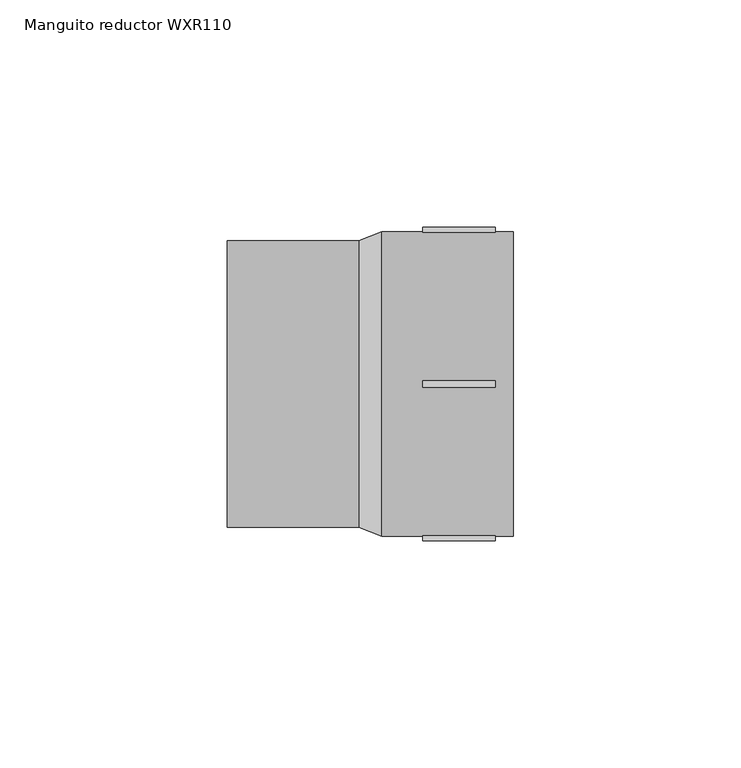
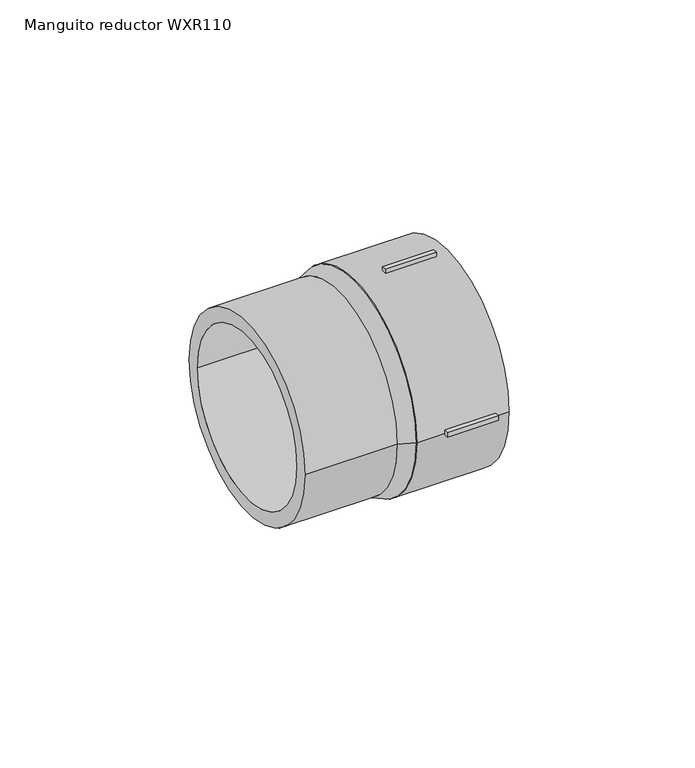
"""IFC4 building model written with IfcOpenShell, lengths in millimetres: pipe fitting geometry, EGB_VASEN_ PPR_Manguito reductor WXR110 : Manguito reductor WXR110."""

from ifc_helpers import new_model, si_unit, point, frame, origin, origin_2d, place, context, project, spatial, polyline, circle_curve, trimmed, segment, composite_curve, outline, extrude, source, transform, mapped, element, save
from ifc_brep_helpers import plane_surface, revolved_surface, advanced_brep


def manguito_reductor_wxr110_e041a7d7(model_context):
    return source(origin(), model_context, "Body", "SolidModel", [
        extrude(outline(polyline([(11.5, -0.75), (11.5, 0.75), (27.5, 0.75), (27.5, -0.75), (11.5, -0.75)])), frame((0.0, 0.0, 32.5), z_axis=(0.0, 0.0, 1.0), x_axis=(1.0, 0.0, 0.0)), (0.0, 0.0, 1.0), 2.0),
        extrude(outline(polyline([(11.5, -0.75), (11.5, 0.75), (27.5, 0.75), (27.5, -0.75), (11.5, -0.75)])), frame((0.0, 0.0, -34.5), z_axis=(0.0, 0.0, 1.0), x_axis=(1.0, 0.0, 0.0)), (0.0, 0.0, 1.0), 2.0),
        extrude(outline(polyline([(11.5, 32.5), (11.5, 34.5), (27.5, 34.5), (27.5, 32.5), (11.5, 32.5)])), frame((0.0, 0.0, -0.75), z_axis=(0.0, 0.0, 1.0), x_axis=(1.0, 0.0, 0.0)), (0.0, 0.0, 1.0), 1.5),
        extrude(outline(polyline([(11.5, -34.5), (11.5, -32.5), (27.5, -32.5), (27.5, -34.5), (11.5, -34.5)])), frame((0.0, 0.0, -0.75), z_axis=(0.0, 0.0, 1.0), x_axis=(1.0, 0.0, 0.0)), (0.0, 0.0, 1.0), 1.5),
        extrude(outline(composite_curve([segment(trimmed(circle_curve(origin_2d(), 33.5), [point((-33.5, 0.0))], [point((33.5, 0.0))], False, "CARTESIAN"), True, "CONTINUOUS"), segment(trimmed(circle_curve(origin_2d(), 33.5), [point((33.5, 0.0))], [point((-33.5, 0.0))], False, "CARTESIAN"), True, "CONTINUOUS")], self_intersect=False), holes=[composite_curve([segment(trimmed(circle_curve(origin_2d(), 25.0), [point((-25.0, 0.0))], [point((25.0, 0.0))], True, "CARTESIAN"), True, "CONTINUOUS"), segment(trimmed(circle_curve(origin_2d(), 25.0), [point((25.0, 0.0))], [point((-25.0, 0.0))], True, "CARTESIAN"), True, "CONTINUOUS")], self_intersect=False)]), frame((2.52, 0.0, 0.0), z_axis=(1.0, 0.0, 0.0), x_axis=(0.0, 1.0, 0.0)), (0.0, 0.0, 1.0), 28.98),
        extrude(outline(composite_curve([segment(trimmed(circle_curve(origin_2d(), 31.5), [point((-31.5, 0.0))], [point((31.5, 0.0))], False, "CARTESIAN"), True, "CONTINUOUS"), segment(trimmed(circle_curve(origin_2d(), 31.5), [point((31.5, 0.0))], [point((-31.5, 0.0))], False, "CARTESIAN"), True, "CONTINUOUS")], self_intersect=False), holes=[composite_curve([segment(trimmed(circle_curve(origin_2d(), 27.0), [point((-27.0, 0.0))], [point((27.0, 0.0))], True, "CARTESIAN"), True, "CONTINUOUS"), segment(trimmed(circle_curve(origin_2d(), 27.0), [point((27.0, 0.0))], [point((-27.0, 0.0))], True, "CARTESIAN"), True, "CONTINUOUS")], self_intersect=False)]), frame((-31.5, 0.0, 0.0), z_axis=(1.0, 0.0, 0.0), x_axis=(0.0, 1.0, 0.0)), (0.0, 0.0, 1.0), 28.98),
        advanced_brep(
        [(2.52, -33.5, 0.0), (2.52, 33.5, 0.0), (-2.52, -31.5, 0.0), (-2.52, 31.5, 0.0)],
        [
            (0, 1, circle_curve(frame((2.52, 0.0, 0.0), z_axis=(1.0, 0.0, 0.0), x_axis=(0.0, -1.0, 0.0)), 33.5)),
            (1, 0, circle_curve(frame((2.52, 0.0, 0.0), z_axis=(1.0, 0.0, 0.0), x_axis=(0.0, 1.0, 0.0)), 33.5)),
            (2, 3, circle_curve(frame((-2.52, 0.0, 0.0), z_axis=(-1.0, 0.0, 0.0), x_axis=(0.0, 1.0, 0.0)), 31.5)),
            (3, 2, circle_curve(frame((-2.52, 0.0, 0.0), z_axis=(-1.0, 0.0, 0.0), x_axis=(0.0, -1.0, 0.0)), 31.5)),
            (3, 1),
            (0, 2),
        ],
        [
            plane_surface(frame((2.52, 0.0, 0.0), z_axis=(1.0, 0.0, 0.0), x_axis=(0.0, 0.0, -1.0))),
            plane_surface(frame((-2.52, 0.0, 0.0), z_axis=(-1.0, 0.0, 0.0), x_axis=(0.0, 0.0, -1.0))),
            revolved_surface(polyline([(-2.519999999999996, 31.5, 0.0), (2.519999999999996, 33.5, 0.0)]), (-81.9, 0.0, 0.0), (1.0, 0.0, 0.0)),
            revolved_surface(polyline([(-2.519999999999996, -31.5, 0.0), (2.519999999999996, -33.5, 0.0)]), (-81.9, 0.0, 0.0), (1.0, 0.0, 0.0)),
        ],
        [
            (0, [[1, 2]]),
            (1, [[3, 4]]),
            (2, [[-4, 5, -1, 6]]),
            (3, [[-3, -6, -2, -5]]),
        ],
    ),
    ])


if __name__ == "__main__":
    model = new_model("IFC4")
    model_context = context("Model", 3, world=origin())
    ifc_project = project(units=[si_unit("LENGTHUNIT", "METRE", prefix="MILLI")], contexts=[model_context])
    site = spatial("IfcSite", under=ifc_project)
    building = spatial("IfcBuilding", under=site)
    placement = place(None, origin())
    manguito_reductor_wxr110_shape = manguito_reductor_wxr110_e041a7d7(model_context)
    element("IfcPipeFitting", 1, ObjectType="EGB_VASEN_ PPR_Manguito reductor WXR110 : Manguito reductor WXR110", at=placement, inside=building, context=model_context, shape_type="MappedRepresentation", body=[
        mapped(manguito_reductor_wxr110_shape, transform((0.0, 0.0, 0.0), x_axis=(1.0, 0.0, 0.0), y_axis=(0.0, 1.0, 0.0), z_axis=(0.0, 0.0, 1.0))),
    ])
    save(model, "model.ifc")
